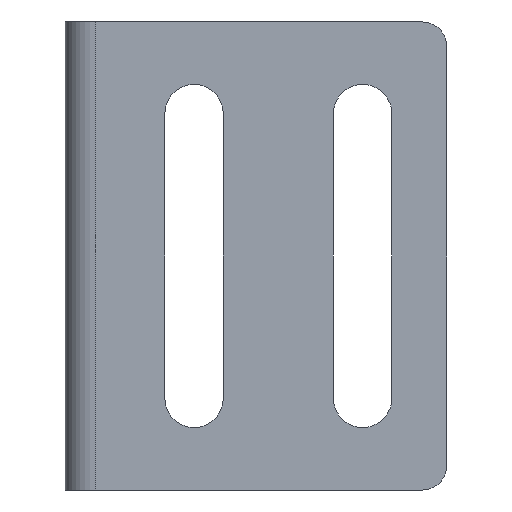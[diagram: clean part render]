
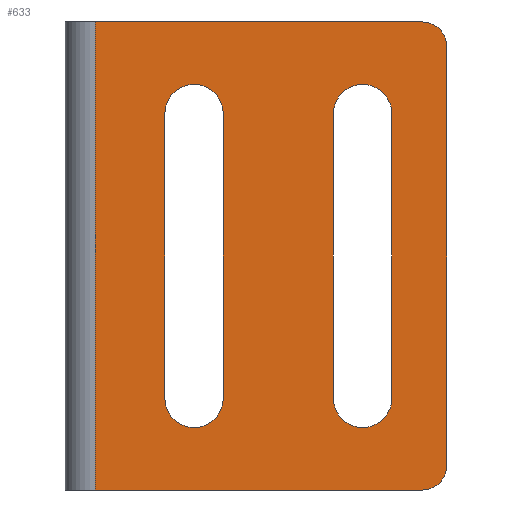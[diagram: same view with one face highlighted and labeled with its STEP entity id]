
A CAD part, front view. The second image highlights one B-rep face of the part: STEP entity #633.
In plain terms, the highlighted planar face has unit normal (0, -1, 0).
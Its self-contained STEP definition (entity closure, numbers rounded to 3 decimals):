
#3 = CIRCLE ( 'NONE', #451, 3.565 ) ;
#5 = CIRCLE ( 'NONE', #923, 3.565 ) ;
#15 = CARTESIAN_POINT ( 'NONE',  ( 34.2, -33.91, 20.965 ) ) ;
#24 = AXIS2_PLACEMENT_3D ( 'NONE', #200, #197, #175 ) ;
#32 = CARTESIAN_POINT ( 'NONE',  ( 41.5, -33.91, 28.6 ) ) ;
#59 = EDGE_CURVE ( 'NONE', #754, #701, #566, .T. ) ;
#66 = CARTESIAN_POINT ( 'NONE',  ( 10.035, -33.91, -17.4 ) ) ;
#73 = EDGE_CURVE ( 'NONE', #934, #448, #409, .T. ) ;
#74 = VECTOR ( 'NONE', #360, 1000. ) ;
#76 = DIRECTION ( 'NONE',  ( 0., 0., 1. ) ) ;
#79 = LINE ( 'NONE', #150, #74 ) ;
#84 = CARTESIAN_POINT ( 'NONE',  ( 44.5, -33.91, 25.6 ) ) ;
#85 = PLANE ( 'NONE',  #408 ) ;
#93 = DIRECTION ( 'NONE',  ( 0., 1., 0. ) ) ;
#98 = CARTESIAN_POINT ( 'NONE',  ( 0., -33.91, 28.6 ) ) ;
#101 = AXIS2_PLACEMENT_3D ( 'NONE', #465, #464, #463 ) ;
#109 = EDGE_CURVE ( 'NONE', #754, #668, #606, .T. ) ;
#112 = CARTESIAN_POINT ( 'NONE',  ( 41.5, -33.91, -28.6 ) ) ;
#127 = AXIS2_PLACEMENT_3D ( 'NONE', #410, #406, #405 ) ;
#143 = FACE_OUTER_BOUND ( 'NONE', #935, .T. ) ;
#144 = FACE_BOUND ( 'NONE', #596, .T. ) ;
#149 = FACE_BOUND ( 'NONE', #755, .T. ) ;
#150 = CARTESIAN_POINT ( 'NONE',  ( 30.635, -33.91, -17.4 ) ) ;
#152 = VECTOR ( 'NONE', #210, 1000. ) ;
#154 = LINE ( 'NONE', #219, #152 ) ;
#168 = CIRCLE ( 'NONE', #24, 3. ) ;
#175 = DIRECTION ( 'NONE',  ( 0., 0., 1. ) ) ;
#181 = VECTOR ( 'NONE', #270, 1000. ) ;
#182 = LINE ( 'NONE', #287, #181 ) ;
#186 = LINE ( 'NONE', #277, #191 ) ;
#191 = VECTOR ( 'NONE', #261, 1000. ) ;
#193 = AXIS2_PLACEMENT_3D ( 'NONE', #775, #772, #766 ) ;
#197 = DIRECTION ( 'NONE',  ( 0., -1., 0. ) ) ;
#198 = CIRCLE ( 'NONE', #459, 3.565 ) ;
#200 = CARTESIAN_POINT ( 'NONE',  ( 41.5, -33.91, -25.6 ) ) ;
#206 = LINE ( 'NONE', #339, #209 ) ;
#209 = VECTOR ( 'NONE', #333, 1000. ) ;
#210 = DIRECTION ( 'NONE',  ( 0., 0., -1. ) ) ;
#212 = VECTOR ( 'NONE', #368, 1000. ) ;
#213 = LINE ( 'NONE', #356, #212 ) ;
#215 = CARTESIAN_POINT ( 'NONE',  ( 10.035, -33.91, 17.4 ) ) ;
#219 = CARTESIAN_POINT ( 'NONE',  ( 17.165, -33.91, -17.4 ) ) ;
#220 = EDGE_CURVE ( 'NONE', #667, #550, #480, .T. ) ;
#224 = CIRCLE ( 'NONE', #127, 3. ) ;
#230 = CARTESIAN_POINT ( 'NONE',  ( 37.765, -33.91, 17.4 ) ) ;
#235 = VERTEX_POINT ( 'NONE', #601 ) ;
#261 = DIRECTION ( 'NONE',  ( 0., 0., -1. ) ) ;
#270 = DIRECTION ( 'NONE',  ( 0., 0., 1. ) ) ;
#274 = VERTEX_POINT ( 'NONE', #554 ) ;
#277 = CARTESIAN_POINT ( 'NONE',  ( 44.5, -33.91, 28.6 ) ) ;
#287 = CARTESIAN_POINT ( 'NONE',  ( 10.035, -33.91, -17.4 ) ) ;
#295 = ORIENTED_EDGE ( 'NONE', *, *, #773, .T. ) ;
#300 = VECTOR ( 'NONE', #793, 1000. ) ;
#301 = DIRECTION ( 'NONE',  ( 0., 0., 1. ) ) ;
#303 = DIRECTION ( 'NONE',  ( 0., 1., 0. ) ) ;
#304 = CARTESIAN_POINT ( 'NONE',  ( 34.2, -33.91, -17.4 ) ) ;
#332 = EDGE_CURVE ( 'NONE', #549, #934, #457, .T. ) ;
#333 = DIRECTION ( 'NONE',  ( 0., 0., -1. ) ) ;
#339 = CARTESIAN_POINT ( 'NONE',  ( 37.765, -33.91, -17.4 ) ) ;
#343 = CARTESIAN_POINT ( 'NONE',  ( 17.165, -33.91, 17.4 ) ) ;
#356 = CARTESIAN_POINT ( 'NONE',  ( 0., -33.91, -28.6 ) ) ;
#360 = DIRECTION ( 'NONE',  ( 0., 0., 1. ) ) ;
#368 = DIRECTION ( 'NONE',  ( 1., 0., 0. ) ) ;
#383 = EDGE_CURVE ( 'NONE', #634, #668, #224, .T. ) ;
#385 = ORIENTED_EDGE ( 'NONE', *, *, #332, .T. ) ;
#388 = ORIENTED_EDGE ( 'NONE', *, *, #910, .T. ) ;
#405 = DIRECTION ( 'NONE',  ( 0., 0., 1. ) ) ;
#406 = DIRECTION ( 'NONE',  ( 0., -1., 0. ) ) ;
#408 = AXIS2_PLACEMENT_3D ( 'NONE', #98, #93, #76 ) ;
#409 = CIRCLE ( 'NONE', #193, 3.565 ) ;
#410 = CARTESIAN_POINT ( 'NONE',  ( 41.5, -33.91, 25.6 ) ) ;
#440 = EDGE_CURVE ( 'NONE', #701, #620, #213, .T. ) ;
#447 = EDGE_CURVE ( 'NONE', #550, #235, #206, .T. ) ;
#448 = VERTEX_POINT ( 'NONE', #343 ) ;
#451 = AXIS2_PLACEMENT_3D ( 'NONE', #659, #689, #645 ) ;
#457 = CIRCLE ( 'NONE', #101, 3.565 ) ;
#459 = AXIS2_PLACEMENT_3D ( 'NONE', #304, #303, #301 ) ;
#461 = ORIENTED_EDGE ( 'NONE', *, *, #383, .T. ) ;
#463 = DIRECTION ( 'NONE',  ( 0., 0., 1. ) ) ;
#464 = DIRECTION ( 'NONE',  ( 0., 1., 0. ) ) ;
#465 = CARTESIAN_POINT ( 'NONE',  ( 13.6, -33.91, 17.4 ) ) ;
#473 = ORIENTED_EDGE ( 'NONE', *, *, #440, .T. ) ;
#474 = EDGE_CURVE ( 'NONE', #235, #721, #198, .T. ) ;
#480 = CIRCLE ( 'NONE', #926, 3.565 ) ;
#493 = EDGE_CURVE ( 'NONE', #635, #549, #182, .T. ) ;
#498 = EDGE_CURVE ( 'NONE', #634, #951, #186, .T. ) ;
#503 = ORIENTED_EDGE ( 'NONE', *, *, #73, .T. ) ;
#518 = DIRECTION ( 'NONE',  ( 0., 0., 1. ) ) ;
#523 = DIRECTION ( 'NONE',  ( 0., 1., 0. ) ) ;
#525 = CARTESIAN_POINT ( 'NONE',  ( 34.2, -33.91, 17.4 ) ) ;
#544 = EDGE_CURVE ( 'NONE', #620, #951, #168, .T. ) ;
#549 = VERTEX_POINT ( 'NONE', #215 ) ;
#550 = VERTEX_POINT ( 'NONE', #230 ) ;
#552 = EDGE_CURVE ( 'NONE', #448, #274, #154, .T. ) ;
#554 = CARTESIAN_POINT ( 'NONE',  ( 17.165, -33.91, -17.4 ) ) ;
#557 = CARTESIAN_POINT ( 'NONE',  ( 1.5, -33.91, 28.6 ) ) ;
#566 = LINE ( 'NONE', #769, #857 ) ;
#580 = ORIENTED_EDGE ( 'NONE', *, *, #447, .T. ) ;
#587 = CARTESIAN_POINT ( 'NONE',  ( 0., -33.91, 28.6 ) ) ;
#596 = EDGE_LOOP ( 'NONE', ( #580, #666, #295, #388, #686 ) ) ;
#601 = CARTESIAN_POINT ( 'NONE',  ( 37.765, -33.91, -17.4 ) ) ;
#603 = DIRECTION ( 'NONE',  ( 0., 0., 1. ) ) ;
#606 = LINE ( 'NONE', #587, #300 ) ;
#608 = DIRECTION ( 'NONE',  ( 0., 1., 0. ) ) ;
#611 = CARTESIAN_POINT ( 'NONE',  ( 34.2, -33.91, 17.4 ) ) ;
#620 = VERTEX_POINT ( 'NONE', #112 ) ;
#622 = ORIENTED_EDGE ( 'NONE', *, *, #915, .T. ) ;
#633 = ADVANCED_FACE ( 'NONE', ( #149, #144, #143 ), #85, .F. ) ;
#634 = VERTEX_POINT ( 'NONE', #84 ) ;
#635 = VERTEX_POINT ( 'NONE', #66 ) ;
#640 = CARTESIAN_POINT ( 'NONE',  ( 44.5, -33.91, -25.6 ) ) ;
#645 = DIRECTION ( 'NONE',  ( 0., 0., 1. ) ) ;
#649 = ORIENTED_EDGE ( 'NONE', *, *, #498, .F. ) ;
#652 = ORIENTED_EDGE ( 'NONE', *, *, #493, .T. ) ;
#655 = CARTESIAN_POINT ( 'NONE',  ( 30.635, -33.91, -17.4 ) ) ;
#659 = CARTESIAN_POINT ( 'NONE',  ( 13.6, -33.91, -17.4 ) ) ;
#666 = ORIENTED_EDGE ( 'NONE', *, *, #474, .T. ) ;
#667 = VERTEX_POINT ( 'NONE', #15 ) ;
#668 = VERTEX_POINT ( 'NONE', #32 ) ;
#679 = VERTEX_POINT ( 'NONE', #872 ) ;
#686 = ORIENTED_EDGE ( 'NONE', *, *, #220, .T. ) ;
#689 = DIRECTION ( 'NONE',  ( 0., 1., 0. ) ) ;
#694 = CARTESIAN_POINT ( 'NONE',  ( 13.6, -33.91, 20.965 ) ) ;
#701 = VERTEX_POINT ( 'NONE', #921 ) ;
#721 = VERTEX_POINT ( 'NONE', #655 ) ;
#754 = VERTEX_POINT ( 'NONE', #557 ) ;
#755 = EDGE_LOOP ( 'NONE', ( #784, #622, #652, #385, #503 ) ) ;
#766 = DIRECTION ( 'NONE',  ( 0., 0., 1. ) ) ;
#769 = CARTESIAN_POINT ( 'NONE',  ( 1.5, -33.91, 28.6 ) ) ;
#770 = ORIENTED_EDGE ( 'NONE', *, *, #59, .T. ) ;
#772 = DIRECTION ( 'NONE',  ( 0., 1., 0. ) ) ;
#773 = EDGE_CURVE ( 'NONE', #721, #679, #79, .T. ) ;
#775 = CARTESIAN_POINT ( 'NONE',  ( 13.6, -33.91, 17.4 ) ) ;
#784 = ORIENTED_EDGE ( 'NONE', *, *, #552, .T. ) ;
#793 = DIRECTION ( 'NONE',  ( 1., 0., 0. ) ) ;
#857 = VECTOR ( 'NONE', #883, 1000. ) ;
#872 = CARTESIAN_POINT ( 'NONE',  ( 30.635, -33.91, 17.4 ) ) ;
#883 = DIRECTION ( 'NONE',  ( 0., 0., -1. ) ) ;
#910 = EDGE_CURVE ( 'NONE', #679, #667, #5, .T. ) ;
#915 = EDGE_CURVE ( 'NONE', #274, #635, #3, .T. ) ;
#921 = CARTESIAN_POINT ( 'NONE',  ( 1.5, -33.91, -28.6 ) ) ;
#922 = ORIENTED_EDGE ( 'NONE', *, *, #544, .T. ) ;
#923 = AXIS2_PLACEMENT_3D ( 'NONE', #525, #523, #518 ) ;
#926 = AXIS2_PLACEMENT_3D ( 'NONE', #611, #608, #603 ) ;
#934 = VERTEX_POINT ( 'NONE', #694 ) ;
#935 = EDGE_LOOP ( 'NONE', ( #649, #461, #957, #770, #473, #922 ) ) ;
#951 = VERTEX_POINT ( 'NONE', #640 ) ;
#957 = ORIENTED_EDGE ( 'NONE', *, *, #109, .F. ) ;
